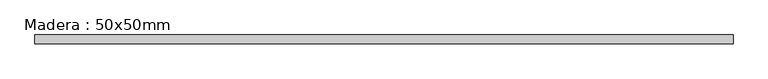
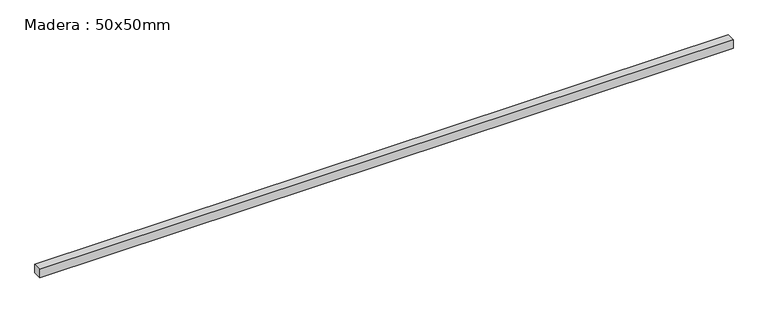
"""IFC4 building model written with IfcOpenShell, lengths in millimetres: beam geometry, Madera : 50x50mm."""

from ifc_helpers import new_model, si_unit, frame, origin, place, context, project, spatial, polyline, outline, extrude, source, transform, mapped, element, save


def madera_50x50mm_d2b621cf(model_context):
    return source(origin(), model_context, "Body", "SweptSolid", [
        extrude(outline(polyline([(2055.5000006, 25.0), (2055.5000006, -25.0), (-1886.4743507, -25.0), (-1886.4743507, 25.0), (2055.5000006, 25.0)])), frame((0.0, 0.0, -25.0), z_axis=(0.0, 0.0, 1.0), x_axis=(1.0, 0.0, 0.0)), (0.0, 0.0, 1.0), 50.0),
    ])


if __name__ == "__main__":
    model = new_model("IFC4")
    model_context = context("Model", 3, world=origin())
    ifc_project = project(units=[si_unit("LENGTHUNIT", "METRE", prefix="MILLI")], contexts=[model_context])
    site = spatial("IfcSite", under=ifc_project)
    building = spatial("IfcBuilding", under=site)
    placement = place(None, origin())
    madera_50x50mm_shape = madera_50x50mm_d2b621cf(model_context)
    element("IfcBeam", 1, ObjectType="Madera : 50x50mm", at=placement, inside=building, context=model_context, shape_type="MappedRepresentation", body=[
        mapped(madera_50x50mm_shape, transform((0.0, 0.0, 0.0), x_axis=(1.0, 0.0, 0.0), y_axis=(0.0, 1.0, 0.0), z_axis=(0.0, 0.0, 1.0))),
    ])
    save(model, "model.ifc")
